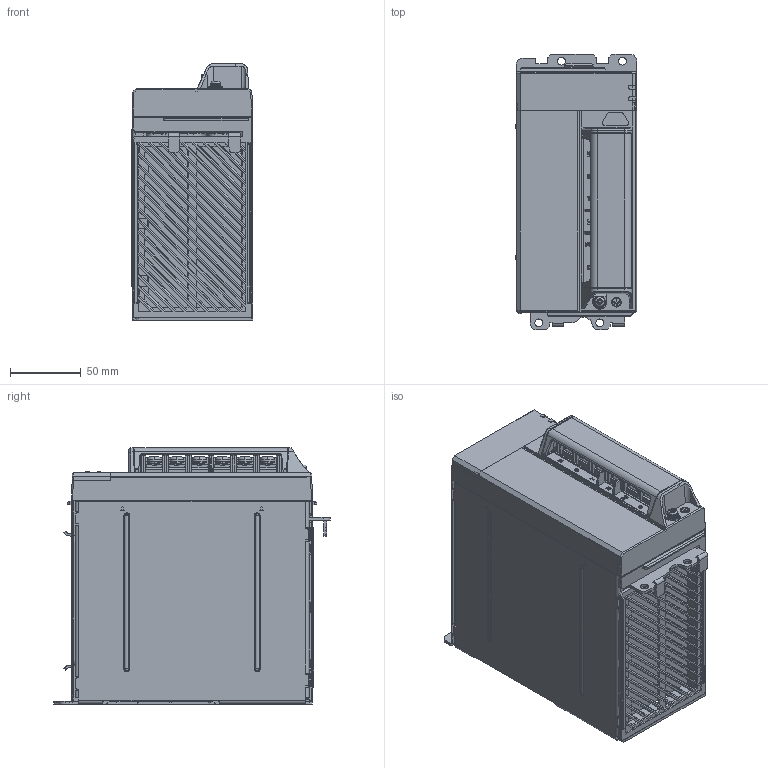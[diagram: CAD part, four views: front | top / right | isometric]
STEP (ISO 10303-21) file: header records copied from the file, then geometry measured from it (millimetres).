
FILE_DESCRIPTION((''),'2;1');
FILE_NAME('DELTA_IA-ASDA_W3-PM80_SW0003','2025-06-12T15:40:50',('FREDGT.HUANG'),(''),'CREO PARAMETRIC BY PTC INC, 2024014','CREO PARAMETRIC BY PTC INC, 2024014','');
FILE_SCHEMA(('CONFIG_CONTROL_DESIGN'));
Products named in the file (1): DELTA_IA-ASDA_W3-PM80_SW0003
Bounding box: 85.5 x 195 x 181 mm (x, y, z)
Volume: 1910328.6 mm3; surface area: 277601.3 mm2
Topology: 1 solids, 3 shells, 3231 faces, 9292 edges, 6089 vertices
Faces by surface type: plane 2281, cylinder 640, cone 127, bspline 81, torus 43, extrusion 38, sphere 21
Entity records: 115256 total; most frequent: CARTESIAN_POINT 31229, ORIENTED_EDGE 18568, DIRECTION 15901, EDGE_CURVE 9284, VECTOR 6887, LINE 6849, VERTEX_POINT 6089, AXIS2_PLACEMENT_3D 4507
